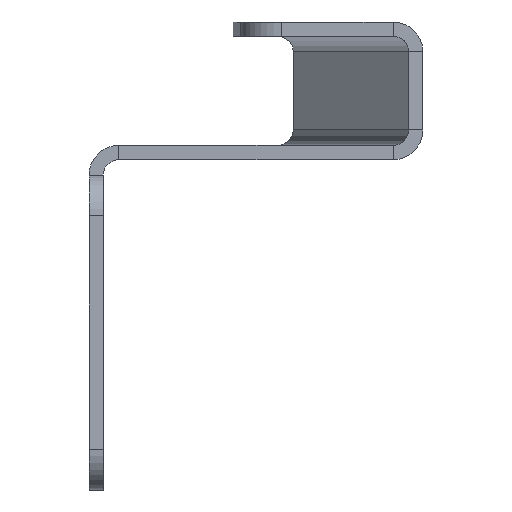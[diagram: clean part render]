
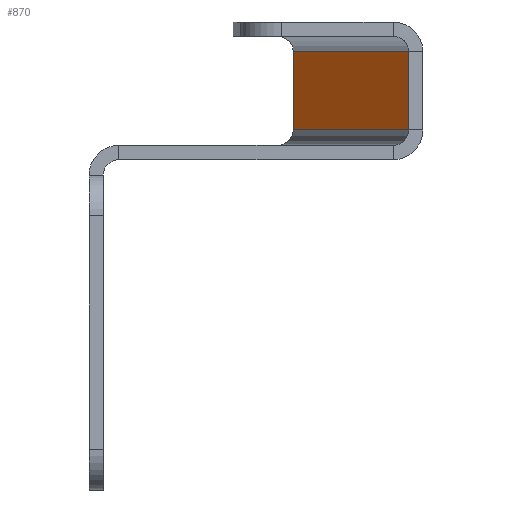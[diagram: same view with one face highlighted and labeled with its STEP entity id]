
A CAD part, left-side view. The second image highlights one B-rep face of the part: STEP entity #870.
In plain terms, the highlighted planar face has unit normal (-0.012, 1, 0).
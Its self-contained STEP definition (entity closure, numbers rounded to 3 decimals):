
#4 = CARTESIAN_POINT ( 'NONE',  ( 479.328, -20.12, 0. ) ) ;
#14 = CARTESIAN_POINT ( 'NONE',  ( -489.512, -31.59, 14.125 ) ) ;
#128 = CARTESIAN_POINT ( 'NONE',  ( 479.328, -20.12, 21.837 ) ) ;
#130 = CARTESIAN_POINT ( 'NONE',  ( -479.345, -31.47, 0. ) ) ;
#160 = PLANE ( 'NONE',  #922 ) ;
#235 = CARTESIAN_POINT ( 'NONE',  ( -479.345, -31.47, 14.125 ) ) ;
#284 = DIRECTION ( 'NONE',  ( -1., -0.012, 0. ) ) ;
#308 = EDGE_CURVE ( 'NONE', #769, #521, #1186, .T. ) ;
#315 = VECTOR ( 'NONE', #284, 1000. ) ;
#318 = VERTEX_POINT ( 'NONE', #235 ) ;
#395 = ORIENTED_EDGE ( 'NONE', *, *, #771, .F. ) ;
#397 = CARTESIAN_POINT ( 'NONE',  ( 479.328, -20.12, 14.125 ) ) ;
#402 = CARTESIAN_POINT ( 'NONE',  ( -479.345, -31.47, 21.837 ) ) ;
#442 = LINE ( 'NONE', #130, #715 ) ;
#457 = ORIENTED_EDGE ( 'NONE', *, *, #1243, .F. ) ;
#506 = DIRECTION ( 'NONE',  ( -0.012, 1., 0. ) ) ;
#521 = VERTEX_POINT ( 'NONE', #397 ) ;
#540 = VERTEX_POINT ( 'NONE', #402 ) ;
#577 = DIRECTION ( 'NONE',  ( 0., 0., -1. ) ) ;
#620 = ORIENTED_EDGE ( 'NONE', *, *, #1344, .F. ) ;
#671 = ORIENTED_EDGE ( 'NONE', *, *, #308, .T. ) ;
#697 = DIRECTION ( 'NONE',  ( 1., 0.012, 0. ) ) ;
#715 = VECTOR ( 'NONE', #825, 1000. ) ;
#769 = VERTEX_POINT ( 'NONE', #128 ) ;
#771 = EDGE_CURVE ( 'NONE', #318, #521, #1236, .T. ) ;
#825 = DIRECTION ( 'NONE',  ( 0., 0., -1. ) ) ;
#857 = CARTESIAN_POINT ( 'NONE',  ( 0.305, -25.791, 0. ) ) ;
#870 = ADVANCED_FACE ( 'NONE', ( #1156 ), #160, .T. ) ;
#905 = EDGE_LOOP ( 'NONE', ( #620, #671, #395, #457 ) ) ;
#922 = AXIS2_PLACEMENT_3D ( 'NONE', #857, #506, #1319 ) ;
#1101 = CARTESIAN_POINT ( 'NONE',  ( 489.479, -20., 21.837 ) ) ;
#1156 = FACE_OUTER_BOUND ( 'NONE', #905, .T. ) ;
#1186 = LINE ( 'NONE', #4, #1486 ) ;
#1236 = LINE ( 'NONE', #14, #1262 ) ;
#1243 = EDGE_CURVE ( 'NONE', #540, #318, #442, .T. ) ;
#1262 = VECTOR ( 'NONE', #697, 1000. ) ;
#1319 = DIRECTION ( 'NONE',  ( -1., -0.012, 0. ) ) ;
#1344 = EDGE_CURVE ( 'NONE', #769, #540, #1497, .T. ) ;
#1486 = VECTOR ( 'NONE', #577, 1000. ) ;
#1497 = LINE ( 'NONE', #1101, #315 ) ;
